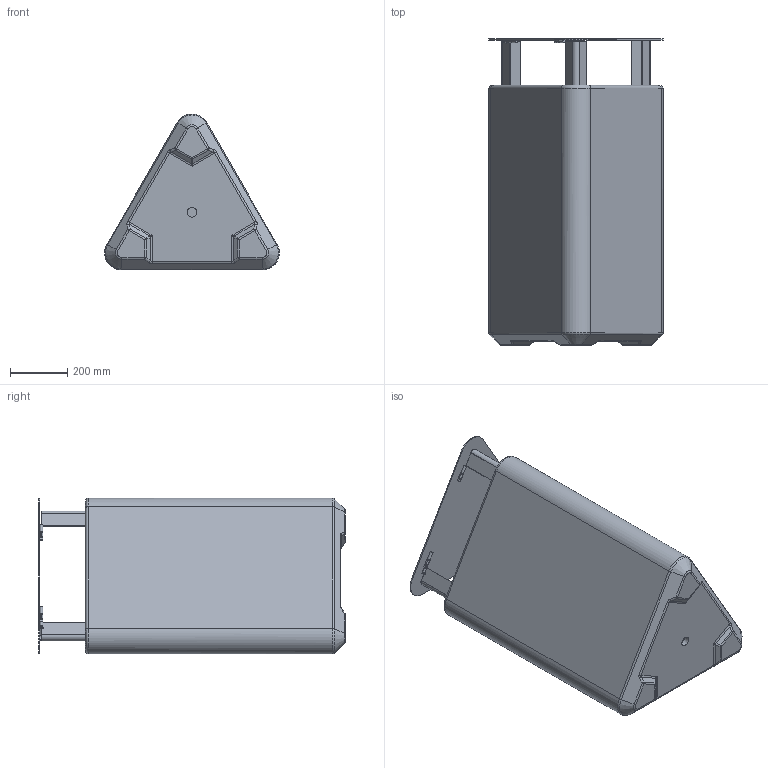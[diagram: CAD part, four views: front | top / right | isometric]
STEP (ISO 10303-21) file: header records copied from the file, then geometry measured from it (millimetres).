
FILE_DESCRIPTION(/* description */ (''),/* implementation_level */ '2;1');
FILE_NAME(/* name */ 'KBE144.00 SIMPLE.step',/* time_stamp */ '2023-08-08T08:40:40+02:00',/* author */ (''),/* organization */ (''),/* preprocessor_version */ 'ST-DEVELOPER v20',/* originating_system */ 'Autodesk Translation Framework v12.9.0.99',/* authorisation */ '');
FILE_SCHEMA (('AUTOMOTIVE_DESIGN { 1 0 10303 214 3 1 1 }'));
Length unit declared in the file: millimetre
Products named in the file (19): KBE144.00; KBE144.01.00; KBE144.02.00_Domylna<Obrobiona>; KBE144.01; D10 L60; D10.L60.01; D10.L60.02; D10.L60.03; KBE144.07.00; Magnes trwa³y GN 50.3-HF-32-M8; KBE144.03.00; KBE144.05.00; KBE144.09.00; KBE144.04.00; KBE144.06.00; NAKRÊTKA TULEJOWA NIERDZEWNA M6X20; Blokada tulejki; DIN_1587_DIN 1587 - M8 --NUC; USZCZELKA NA KRAWED RANT OS£ONA ZACISKOWA 3MM
 T-4
Assembly tree (21 placements, depth 4):
  KBE144.00
    KBE144.01.00
    KBE144.02.00_Domylna<Obrobiona>
    KBE144.03.00
    KBE144.01
      D10 L60  x2
        D10.L60.01
        D10.L60.02
        D10.L60.03
      KBE144.07.00
      Magnes trwa³y GN 50.3-HF-32-M8
      KBE144.03.00  x2
      KBE144.05.00
      KBE144.09.00
      KBE144.04.00
      KBE144.06.00
      NAKRÊTKA TULEJOWA NIERDZEWNA M6X20
      Blokada tulejki
      DIN_1587_DIN 1587 - M8 --NUC
    USZCZELKA NA KRAWED RANT OS£ONA ZACISKOWA 3MM
 T-4
Bounding box: 612.15 x 1073.93 x 546.22 mm (x, y, z)
Volume: 75199477.1 mm3; surface area: 3911915.4 mm2
Topology: 21 solids, 21 shells, 680 faces, 1721 edges, 1081 vertices
Faces by surface type: plane 457, cylinder 139, bspline 33, cone 19, sphere 16, torus 16
Full cylindrical faces by diameter (mm): 6 x11, 6.1 x4, 6.2 x1, 6.5 x1, 6.8 x1, 8 x8, 8.08 x1, 9 x1, 9.353 x6, 10 x3, 12.5 x1, 13 x3, 32 x1, 34 x1
Entity records: 30187 total; most frequent: CARTESIAN_POINT 14474, ORIENTED_EDGE 3234, DIRECTION 3039, EDGE_CURVE 1617, LINE 1257, VECTOR 1257, VERTEX_POINT 1021, AXIS2_PLACEMENT_3D 891
